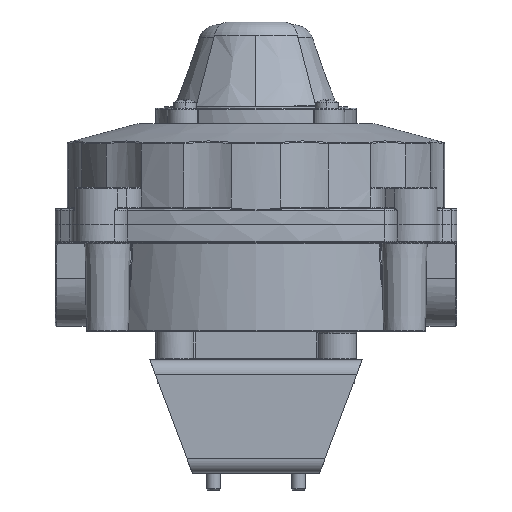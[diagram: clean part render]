
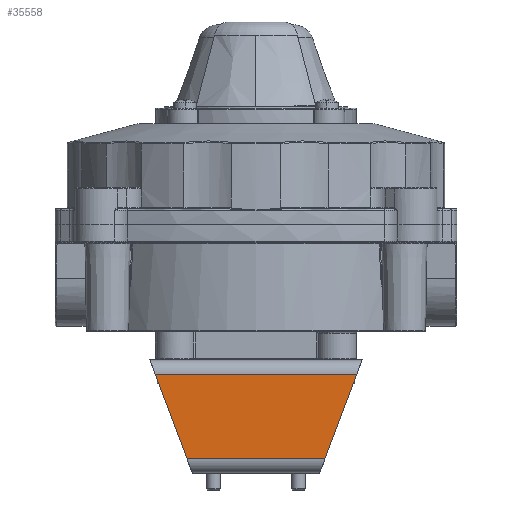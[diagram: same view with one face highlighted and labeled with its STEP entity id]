
A CAD part, left-side view. The second image highlights one B-rep face of the part: STEP entity #35558.
In plain terms, the highlighted planar face has unit normal (-1, 0, 0).
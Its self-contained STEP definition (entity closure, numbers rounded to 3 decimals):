
#4635=DIRECTION('',(0.,1.,0.));
#4636=VECTOR('',#4635,48.75);
#4637=CARTESIAN_POINT('',(-58.,14.601,-76.5));
#4638=LINE('',#4637,#4636);
#4653=DIRECTION('',(0.,-0.351,0.936));
#4654=VECTOR('',#4653,32.04);
#4655=CARTESIAN_POINT('',(-58.,14.601,-76.5));
#4656=LINE('',#4655,#4654);
#4657=DIRECTION('',(0.,-0.351,-0.936));
#4658=VECTOR('',#4657,32.04);
#4659=CARTESIAN_POINT('',(-58.,74.601,-46.5));
#4660=LINE('',#4659,#4658);
#4685=DIRECTION('',(0.,-1.,0.));
#4686=VECTOR('',#4685,71.25);
#4687=CARTESIAN_POINT('',(-58.,74.601,-46.5));
#4688=LINE('',#4687,#4686);
#25900=CARTESIAN_POINT('',(-58.,74.601,-46.5));
#25901=CARTESIAN_POINT('',(-58.,3.351,-46.5));
#25902=VERTEX_POINT('',#25900);
#25903=VERTEX_POINT('',#25901);
#25904=CARTESIAN_POINT('',(-58.,63.351,-76.5));
#25905=VERTEX_POINT('',#25904);
#25906=CARTESIAN_POINT('',(-58.,14.601,-76.5));
#25907=VERTEX_POINT('',#25906);
#35545=CARTESIAN_POINT('',(-58.,1.476,-41.5));
#35546=DIRECTION('',(1.,0.,0.));
#35547=DIRECTION('',(0.,0.,-1.));
#35548=AXIS2_PLACEMENT_3D('',#35545,#35546,#35547);
#35549=PLANE('',#35548);
#35551=ORIENTED_EDGE('',*,*,#35550,.T.);
#35553=ORIENTED_EDGE('',*,*,#35552,.F.);
#35554=ORIENTED_EDGE('',*,*,#35530,.T.);
#35555=ORIENTED_EDGE('',*,*,#34692,.F.);
#35556=EDGE_LOOP('',(#35551,#35553,#35554,#35555));
#35557=FACE_OUTER_BOUND('',#35556,.F.);
#35558=ADVANCED_FACE('',(#35557),#35549,.F.);
#34692=EDGE_CURVE('',#25902,#25905,#4660,.T.);
#35530=EDGE_CURVE('',#25907,#25905,#4638,.T.);
#35550=EDGE_CURVE('',#25902,#25903,#4688,.T.);
#35552=EDGE_CURVE('',#25907,#25903,#4656,.T.);
